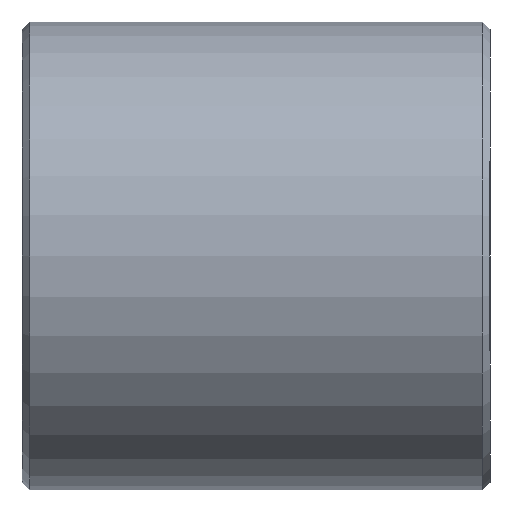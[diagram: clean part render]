
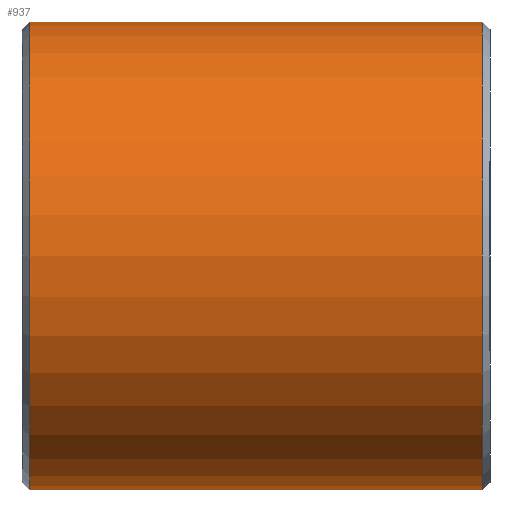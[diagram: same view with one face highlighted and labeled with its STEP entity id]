
A CAD part, left-side view. The second image highlights one B-rep face of the part: STEP entity #937.
In plain terms, the highlighted cylindrical face has radius 15 mm (diameter 30 mm), a partial arc.
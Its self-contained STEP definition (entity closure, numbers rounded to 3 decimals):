
#3 = CARTESIAN_POINT ( 'NONE',  ( 0., 1., -15. ) ) ;
#18 = VECTOR ( 'NONE', #318, 1000. ) ;
#44 = CARTESIAN_POINT ( 'NONE',  ( 0., -28., -15. ) ) ;
#52 = LINE ( 'NONE', #555, #550 ) ;
#104 = VERTEX_POINT ( 'NONE', #1117 ) ;
#123 = VERTEX_POINT ( 'NONE', #44 ) ;
#141 = ORIENTED_EDGE ( 'NONE', *, *, #826, .T. ) ;
#165 = DIRECTION ( 'NONE',  ( 0., -1., 0. ) ) ;
#192 = CARTESIAN_POINT ( 'NONE',  ( 0., 65.513, -15. ) ) ;
#244 = DIRECTION ( 'NONE',  ( 0., 0., 1. ) ) ;
#318 = DIRECTION ( 'NONE',  ( 0., 1., 0. ) ) ;
#319 = DIRECTION ( 'NONE',  ( 0., 1., 0. ) ) ;
#326 = CARTESIAN_POINT ( 'NONE',  ( 0., -28., 0. ) ) ;
#355 = ORIENTED_EDGE ( 'NONE', *, *, #636, .T. ) ;
#372 = CIRCLE ( 'NONE', #1130, 15. ) ;
#393 = LINE ( 'NONE', #192, #18 ) ;
#395 = AXIS2_PLACEMENT_3D ( 'NONE', #700, #504, #244 ) ;
#431 = DIRECTION ( 'NONE',  ( 0., 1., 0. ) ) ;
#471 = VERTEX_POINT ( 'NONE', #3 ) ;
#504 = DIRECTION ( 'NONE',  ( 0., 1., 0. ) ) ;
#538 = CIRCLE ( 'NONE', #929, 15. ) ;
#550 = VECTOR ( 'NONE', #319, 1000. ) ;
#555 = CARTESIAN_POINT ( 'NONE',  ( 0., 65.513, 15. ) ) ;
#636 = EDGE_CURVE ( 'NONE', #123, #788, #372, .T. ) ;
#700 = CARTESIAN_POINT ( 'NONE',  ( 0., 65.513, 0. ) ) ;
#766 = ORIENTED_EDGE ( 'NONE', *, *, #938, .F. ) ;
#777 = CARTESIAN_POINT ( 'NONE',  ( 0., -28., 15. ) ) ;
#788 = VERTEX_POINT ( 'NONE', #777 ) ;
#799 = CARTESIAN_POINT ( 'NONE',  ( 0., 1., 0. ) ) ;
#826 = EDGE_CURVE ( 'NONE', #104, #471, #538, .T. ) ;
#871 = CYLINDRICAL_SURFACE ( 'NONE', #395, 15. ) ;
#901 = FACE_OUTER_BOUND ( 'NONE', #1198, .T. ) ;
#909 = DIRECTION ( 'NONE',  ( 0., 0., 1. ) ) ;
#929 = AXIS2_PLACEMENT_3D ( 'NONE', #799, #165, #909 ) ;
#937 = ADVANCED_FACE ( 'NONE', ( #901 ), #871, .T. ) ;
#938 = EDGE_CURVE ( 'NONE', #123, #471, #393, .T. ) ;
#1010 = EDGE_CURVE ( 'NONE', #788, #104, #52, .T. ) ;
#1042 = DIRECTION ( 'NONE',  ( 0., 0., -1. ) ) ;
#1054 = ORIENTED_EDGE ( 'NONE', *, *, #1010, .T. ) ;
#1117 = CARTESIAN_POINT ( 'NONE',  ( 0., 1., 15. ) ) ;
#1130 = AXIS2_PLACEMENT_3D ( 'NONE', #326, #431, #1042 ) ;
#1198 = EDGE_LOOP ( 'NONE', ( #766, #355, #1054, #141 ) ) ;
